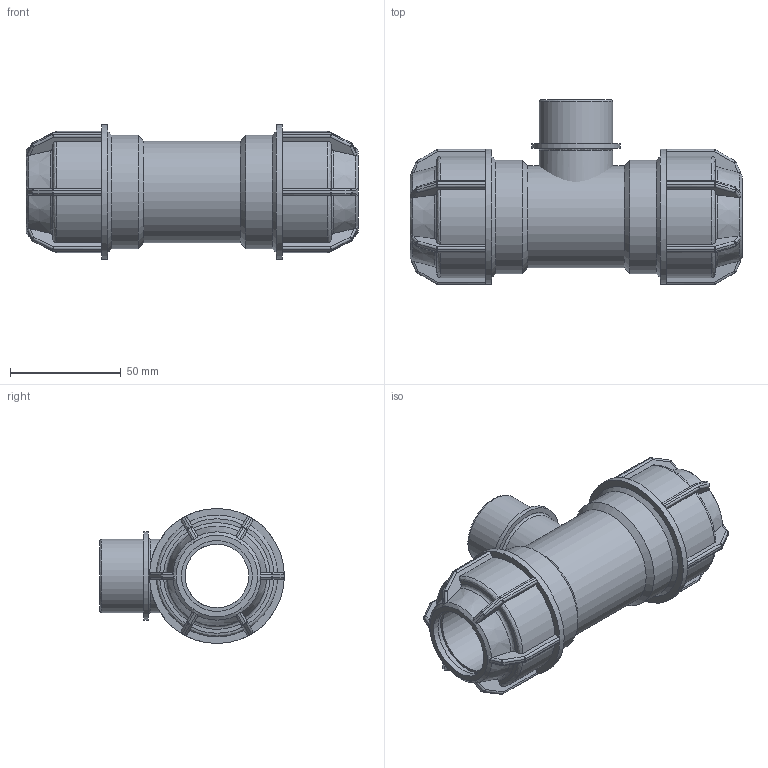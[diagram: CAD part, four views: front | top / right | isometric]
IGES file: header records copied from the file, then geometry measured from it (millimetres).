
Global section: file name: 148400032010.ipt; native system: Autodesk Inventor 2015; preprocessor: unknown; author: KIM; date: 20180409.131232; units: millimetre
Bounding box: 150 x 83.5 x 61 mm (x, y, z)
Volume: 193894 mm3; surface area: 55380.9 mm2
Topology: 2 solids, 2 shells, 415 faces, 1005 edges, 588 vertices
Faces by surface type: plane 197, cylinder 116, sphere 48, revolution 38, cone 16
Full cylindrical faces by diameter (mm): 33.249 x2, 39.899 x1, 46.08 x1, 51.2 x2, 61 x2
